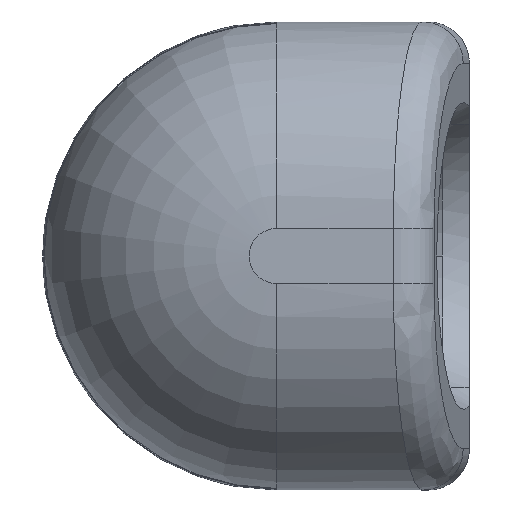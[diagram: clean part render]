
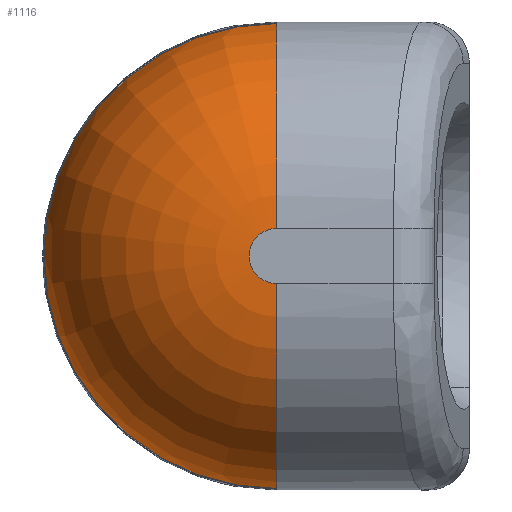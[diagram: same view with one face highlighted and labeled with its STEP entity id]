
A CAD part, left-side view. The second image highlights one B-rep face of the part: STEP entity #1116.
In plain terms, the highlighted toroidal (fillet/blend) face has major radius 1 mm and minor radius 7.5 mm.
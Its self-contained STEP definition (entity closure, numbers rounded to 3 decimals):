
#49 = EDGE_CURVE ( 'NONE', #538, #1504, #923, .T. ) ;
#115 = DIRECTION ( 'NONE',  ( -1., 0., 0. ) ) ;
#126 = CARTESIAN_POINT ( 'NONE',  ( -8.5, 0., 0. ) ) ;
#134 = DIRECTION ( 'NONE',  ( 0., 0., 1. ) ) ;
#151 = ORIENTED_EDGE ( 'NONE', *, *, #1511, .T. ) ;
#162 = CARTESIAN_POINT ( 'NONE',  ( -1.903, 0., 8.445 ) ) ;
#259 = CIRCLE ( 'NONE', #561, 7.5 ) ;
#378 = DIRECTION ( 'NONE',  ( 0., 0., 1. ) ) ;
#442 = AXIS2_PLACEMENT_3D ( 'NONE', #756, #631, #1509 ) ;
#538 = VERTEX_POINT ( 'NONE', #162 ) ;
#561 = AXIS2_PLACEMENT_3D ( 'NONE', #1368, #893, #115 ) ;
#631 = DIRECTION ( 'NONE',  ( -1., 0., 0. ) ) ;
#654 = DIRECTION ( 'NONE',  ( 0., -1., 0. ) ) ;
#693 = CIRCLE ( 'NONE', #442, 8.445 ) ;
#708 = TOROIDAL_SURFACE ( 'NONE', #1275, 1., 7.5 ) ;
#709 = AXIS2_PLACEMENT_3D ( 'NONE', #1263, #654, #1531 ) ;
#754 = EDGE_CURVE ( 'NONE', #538, #845, #693, .T. ) ;
#756 = CARTESIAN_POINT ( 'NONE',  ( -1.903, 0., 0. ) ) ;
#845 = VERTEX_POINT ( 'NONE', #1559 ) ;
#892 = DIRECTION ( 'NONE',  ( -1., 0., 0. ) ) ;
#893 = DIRECTION ( 'NONE',  ( 0., 1., 0. ) ) ;
#923 = CIRCLE ( 'NONE', #709, 7.5 ) ;
#1077 = CARTESIAN_POINT ( 'NONE',  ( -8.5, 0., -1. ) ) ;
#1116 = ADVANCED_FACE ( 'NONE', ( #1176 ), #708, .T. ) ;
#1123 = CARTESIAN_POINT ( 'NONE',  ( -8.5, 0., 1. ) ) ;
#1137 = ORIENTED_EDGE ( 'NONE', *, *, #1495, .F. ) ;
#1147 = CIRCLE ( 'NONE', #1519, 1. ) ;
#1148 = CARTESIAN_POINT ( 'NONE',  ( -1., 0., 0. ) ) ;
#1176 = FACE_OUTER_BOUND ( 'NONE', #1428, .T. ) ;
#1208 = VERTEX_POINT ( 'NONE', #1077 ) ;
#1263 = CARTESIAN_POINT ( 'NONE',  ( -1., 0., 1. ) ) ;
#1275 = AXIS2_PLACEMENT_3D ( 'NONE', #1148, #892, #134 ) ;
#1368 = CARTESIAN_POINT ( 'NONE',  ( -1., 0., -1. ) ) ;
#1428 = EDGE_LOOP ( 'NONE', ( #1137, #1437, #1468, #151 ) ) ;
#1437 = ORIENTED_EDGE ( 'NONE', *, *, #49, .F. ) ;
#1468 = ORIENTED_EDGE ( 'NONE', *, *, #754, .T. ) ;
#1495 = EDGE_CURVE ( 'NONE', #1504, #1208, #1147, .T. ) ;
#1504 = VERTEX_POINT ( 'NONE', #1123 ) ;
#1508 = DIRECTION ( 'NONE',  ( -1., 0., 0. ) ) ;
#1509 = DIRECTION ( 'NONE',  ( 0., 0., 1. ) ) ;
#1511 = EDGE_CURVE ( 'NONE', #845, #1208, #259, .T. ) ;
#1519 = AXIS2_PLACEMENT_3D ( 'NONE', #126, #1508, #378 ) ;
#1531 = DIRECTION ( 'NONE',  ( -1., 0., 0. ) ) ;
#1559 = CARTESIAN_POINT ( 'NONE',  ( -1.903, 0., -8.445 ) ) ;
